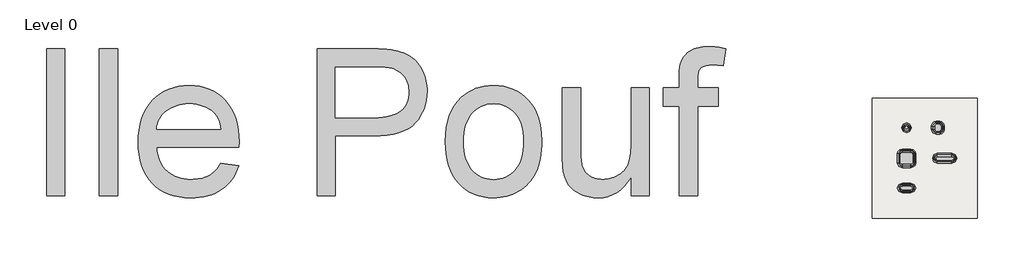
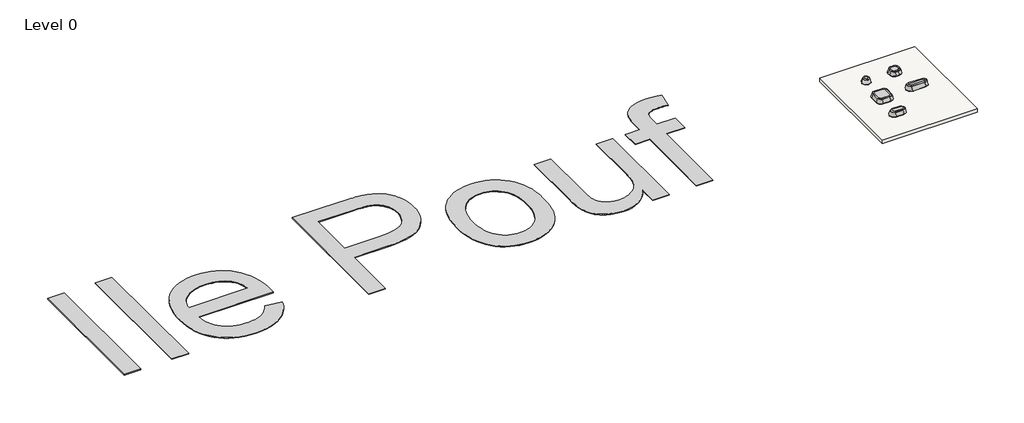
# One storey: 5 furniture elements, 1 proxy, 1 slab.
"""IFC4 building model written with IfcOpenShell, lengths in millimetres."""

from ifc_helpers import new_model, si_unit, frame, origin, origin_with_axes, place, context, project, spatial, polyline, outline, extrude, transform, mapped, element, save
from components import furniture_b467a2fe, furniture_154e36b8, furniture_c3841720, furniture_e9a74ccd, furniture_69604ef7

model = new_model("IFC4")

# Units and contexts
model_context = context("Model", 3, world=origin())
ifc_project = project(units=[si_unit("LENGTHUNIT", "METRE", prefix="MILLI")], contexts=[model_context])

# Site, building, storey
site = spatial("IfcSite", under=ifc_project)
building = spatial("IfcBuilding", under=site)
storey = spatial("IfcBuildingStorey", under=building, Name="Level 0", Elevation=0.0)

# Proxy
placement = place(None, origin())
element("IfcBuildingElementProxy", 1, Name="10 mm", ObjectType="10 mm", at=placement, inside=storey, context=model_context, shape_type="SweptSolid", body=[
    extrude(outline(polyline([(-161590.2260917, 70710.4267394), (-161590.2260917, 80756.0577544), (-160334.5222148, 80756.0577544), (-160334.5222148, 70710.4267394), (-161590.2260917, 70710.4267394)])), origin_with_axes(), (0.0, 0.0, 1.0), 50.0),
    extrude(outline(polyline([(-157980.0774457, 70710.4267394), (-157980.0774457, 80756.0577544), (-156724.3735688, 80756.0577544), (-156724.3735688, 70710.4267394), (-157980.0774457, 70710.4267394)])), origin_with_axes(), (0.0, 0.0, 1.0), 50.0),
    extrude(outline(polyline([(-149675.7545412, 72907.9085239), (-148444.5761307, 72750.9455393), (-148530.7026707, 72497.0686416), (-148633.3455795, 72257.8303816), (-148752.504857, 72033.2307594), (-148888.1805032, 71823.2697748), (-149040.3725182, 71627.947428), (-149209.0809019, 71447.2637189), (-149394.3056544, 71281.2186476), (-149596.0467756, 71129.8122139), (-149813.3079185, 70994.7305438), (-150045.092736, 70877.6597631), (-150291.401228, 70778.5998716), (-150552.2333947, 70697.5508696), (-150827.589236, 70634.5127569), (-151117.4687519, 70589.4855335), (-151421.8719424, 70562.4691995), (-151740.7988075, 70553.4637548), (-152140.9854404, 70569.002937), (-152519.9422164, 70615.6204836), (-152877.6691357, 70693.3163945), (-153214.1661982, 70802.0906699), (-153529.4334038, 70941.9433096), (-153823.4707527, 71112.8743137), (-154096.2782447, 71314.8836822), (-154347.85588, 71547.9714151), (-154573.7584176, 71809.1101501), (-154769.5406169, 72095.272525), (-154935.2024779, 72406.4585398), (-155070.7440005, 72742.6681944), (-155176.1651847, 73103.901489), (-155251.4660306, 73490.1584234), (-155296.6465382, 73901.4389977), (-155311.7067073, 74337.7432119), (-155296.493254, 74788.8968295), (-155250.852894, 75214.0687812), (-155174.7856272, 75613.259067), (-155068.2914539, 75986.4676869), (-154931.3703738, 76333.6946409), (-154764.022387, 76654.939929), (-154566.2474936, 76950.2035511), (-154338.0456934, 77219.4855074), (-154085.5866742, 77459.7584355), (-153815.0401236, 77667.9949732), (-153526.4060416, 77844.1951205), (-153219.6844281, 77988.3588773), (-152894.8752832, 78100.4862438), (-152551.9786068, 78180.5772198), (-152190.9943991, 78228.6318054), (-151811.9226599, 78244.6500006), (-151445.2477775, 78228.6701265), (-151095.7024005, 78180.730504), (-150763.2865289, 78100.8311331), (-150448.0001628, 77988.972014), (-150149.843302, 77845.1531465), (-149868.8159466, 77669.3745307), (-149604.9180966, 77461.6361665), (-149358.1497521, 77221.938054), (-149134.8338847, 76953.2692344), (-148941.2934663, 76658.6187489), (-148777.5284969, 76337.9865975), (-148643.5389764, 75991.3727802), (-148539.324905, 75618.7772969), (-148464.8862825, 75220.2001478), (-148420.223109, 74795.6413327), (-148405.3353845, 74345.1008518), (-148412.6930244, 74006.6494162), (-154056.0028305, 74006.6494162), (-154028.6224465, 73748.3272777), (-153983.2694943, 73505.5634819), (-153919.9439738, 73278.3580289), (-153838.645885, 73066.7109185), (-153739.3752278, 72870.6221509), (-153622.1320024, 72690.091726), (-153486.9162086, 72525.1196437), (-153333.7278466, 72375.7059042), (-153166.5523045, 72242.9234966), (-152989.3749707, 72127.84541), (-152802.1958451, 72030.4716444), (-152605.0149278, 71950.8021998), (-152397.8322188, 71888.8370763), (-152180.647718, 71844.5762737), (-151953.4614254, 71818.0197922), (-151716.2733411, 71809.1676317), (-151539.306773, 71813.2679831), (-151368.931424, 71825.5690373), (-151205.1472941, 71846.0707943), (-151047.9543832, 71874.7732541), (-150897.3526915, 71911.6764168), (-150753.3422188, 71956.7802822), (-150615.9229651, 72010.0848505), (-150485.0949306, 72071.5901216), (-150360.8581152, 72142.0625163), (-150243.2125188, 72222.2684554), (-150132.1581415, 72312.207939), (-150027.6949833, 72411.8809671), (-149929.8230441, 72521.2875396), (-149838.5423241, 72640.4276566), (-149753.8528231, 72769.301318), (-149675.7545412, 72907.9085239)]), holes=[polyline([(-154056.0028305, 75262.3532931), (-149661.0392614, 75262.3532931), (-149688.2088796, 75445.9110802), (-149725.5718947, 75617.6659867), (-149773.1283068, 75777.6180126), (-149830.8781159, 75925.7671577), (-149898.8213218, 76062.1134222), (-149976.9579248, 76186.6568059), (-150065.2879247, 76299.3973091), (-150163.8113215, 76400.3349315), (-150329.1282931, 76538.2906797), (-150506.2481453, 76657.8523281), (-150695.1708783, 76759.0198768), (-150895.8964919, 76841.7933257), (-151108.4249862, 76906.1726748), (-151332.7563612, 76952.1579242), (-151568.8906168, 76979.7490739), (-151816.8277531, 76988.9461238), (-152042.1746357, 76981.6076444), (-152258.3627894, 76959.5922062), (-152465.3922143, 76922.8998093), (-152663.2629104, 76871.5304536), (-152851.9748776, 76805.4841392), (-153031.528116, 76724.760866), (-153201.9226255, 76629.360634), (-153363.1584062, 76519.2834433), (-153511.0584646, 76396.9051983), (-153641.4458071, 76264.6018037), (-153754.3204339, 76122.3732594), (-153849.6823448, 75970.2195655), (-153927.53154, 75808.1407218), (-153987.8680193, 75636.1367286), (-154030.6917828, 75454.2075857), (-154056.0028305, 75262.3532931)])]), origin_with_axes(), (0.0, 0.0, 1.0), 50.0),
    extrude(outline(polyline([(-143068.5939078, 70710.4267394), (-143068.5939078, 80756.0577544), (-139345.6281167, 80756.0577544), (-139107.0413144, 80754.5632338), (-138883.0165077, 80750.0796719), (-138673.5536967, 80742.6070689), (-138478.6528814, 80732.1454247), (-138298.3140616, 80718.6947392), (-138132.5372376, 80702.2550126), (-137981.3224091, 80682.8262447), (-137844.6695763, 80660.4084356), (-137666.2659692, 80626.2452274), (-137495.258323, 80585.0692687), (-137331.6466377, 80536.8805594), (-137175.4309134, 80481.6790996), (-137026.6111501, 80419.4648893), (-136885.1873477, 80350.2379284), (-136751.1595062, 80273.998217), (-136624.5276257, 80190.7457551), (-136504.6019273, 80099.6566403), (-136390.6926325, 79999.9069701), (-136282.7997411, 79891.4967447), (-136180.9232531, 79774.4259639), (-136085.0631687, 79648.6946278), (-135995.2194877, 79514.3027365), (-135911.3922101, 79371.2502898), (-135833.581336, 79219.5372878), (-135763.4538307, 79061.5971167), (-135702.6766594, 78899.8631625), (-135651.2498222, 78734.3354251), (-135609.173319, 78565.0139048), (-135576.4471498, 78391.8986013), (-135553.0713147, 78214.9895148), (-135539.0458136, 78034.2866452), (-135534.3706466, 77849.7899925), (-135546.9974297, 77535.2892076), (-135584.8777789, 77233.1277981), (-135648.0116942, 76943.3057637), (-135736.3991756, 76665.8231047), (-135850.0402232, 76400.6798208), (-135988.9348369, 76147.8759123), (-136153.0830167, 75907.411379), (-136342.4847627, 75679.2862209), (-136564.8426041, 75471.2029674), (-136827.8590701, 75290.8641477), (-137131.5341608, 75138.2697618), (-137475.8678762, 75013.4198097), (-137860.8602162, 74916.3142914), (-138286.511181, 74846.9532068), (-138752.8207704, 74805.3365561), (-139259.7889844, 74791.4643392), (-141812.890031, 74791.4643392), (-141812.890031, 70710.4267394), (-143068.5939078, 70710.4267394)]), holes=[polyline([(-141812.890031, 76047.1682161), (-139186.2125854, 76047.1682161), (-138872.4399004, 76054.3725718), (-138582.2729767, 76075.9856391), (-138315.7118143, 76112.0074178), (-138072.7564133, 76162.4379079), (-137853.4067737, 76227.2771096), (-137657.6628955, 76306.5250227), (-137485.5247785, 76400.1816473), (-137336.992423, 76508.2469834), (-137208.8085403, 76629.3797945), (-137097.715842, 76762.2388442), (-137003.714328, 76906.8241325), (-136926.8039984, 77063.1356595), (-136866.9848531, 77231.173425), (-136824.2568922, 77410.9374291), (-136798.6201157, 77602.4276718), (-136790.0745235, 77805.6441531), (-136795.1137404, 77954.9429294), (-136810.2313911, 78098.7234759), (-136835.4274757, 78236.9857924), (-136870.7019941, 78369.729879), (-136916.0549463, 78496.9557357), (-136971.4863324, 78618.6633624), (-137036.9961522, 78734.8527592), (-137112.5844059, 78845.5239261), (-137196.3733624, 78948.8374531), (-137286.4852907, 79042.9539302), (-137382.9201908, 79127.8733574), (-137485.6780627, 79203.5957347), (-137594.7589064, 79270.1210622), (-137710.1627218, 79327.4493398), (-137831.8895091, 79375.5805675), (-137959.9392682, 79414.5147453), (-138054.1323873, 79434.6332919), (-138166.2597538, 79452.0693656), (-138296.3213675, 79466.8229665), (-138444.3172285, 79478.8940944), (-138610.2473367, 79488.2827495), (-138794.1116922, 79494.9889317), (-139215.643145, 79500.3538775), (-141812.890031, 79500.3538775), (-141812.890031, 76047.1682161)])]), origin_with_axes(), (0.0, 0.0, 1.0), 50.0),
    extrude(outline(polyline([(-134278.6667698, 74399.0568777), (-134261.6905485, 74893.2833456), (-134210.7618848, 75354.477076), (-134125.8807786, 75782.638069), (-134007.04723, 76177.7663244), (-133854.2612389, 76539.8618424), (-133667.5228053, 76868.9246228), (-133446.8319292, 77164.9546658), (-133192.1886107, 77427.9519713), (-132959.1200383, 77619.365572), (-132713.6354486, 77785.2573592), (-132455.7348416, 77925.6273329), (-132185.4182172, 78040.4754933), (-131902.6855755, 78129.8018403), (-131607.5369164, 78193.6063738), (-131299.9722401, 78231.8890939), (-130979.9915463, 78244.6500006), (-130625.3111498, 78229.1108184), (-130287.2237642, 78182.4932719), (-129965.7293893, 78104.7973609), (-129660.8280253, 77996.0230856), (-129372.5196721, 77856.1704458), (-129100.8043297, 77685.2394417), (-128845.6819982, 77483.2300732), (-128607.1526774, 77250.1423403), (-128391.3094131, 76989.655063), (-128204.2452506, 76705.4470612), (-128045.9601901, 76397.518335), (-127916.4542315, 76065.8688842), (-127815.7273748, 75710.498709), (-127743.77962, 75331.4078092), (-127700.6109671, 74928.596185), (-127686.2214162, 74502.0638364), (-127692.582709, 74156.5230082), (-127711.6665875, 73829.9127743), (-127743.4730517, 73522.2331348), (-127788.0021015, 73233.4840897), (-127845.253737, 72963.6656388), (-127915.2279582, 72712.7777823), (-127997.924765, 72480.8205202), (-128093.3441575, 72267.7938523), (-128200.9304806, 72069.9231563), (-128320.1280791, 71883.4338094), (-128450.9369531, 71708.3258118), (-128593.3571026, 71544.5991635), (-128747.3885276, 71392.2538643), (-128913.031228, 71251.2899144), (-129090.2852039, 71121.7073137), (-129279.1504553, 71003.5060622), (-129476.0631253, 70898.0273964), (-129677.4593572, 70806.6125527), (-129883.3391508, 70729.2615311), (-130093.7025063, 70665.9743317), (-130308.5494236, 70616.7509543), (-130527.8799027, 70581.591399), (-130751.6939436, 70560.4956659), (-130979.9915463, 70553.4637548), (-131340.2668148, 70568.9454554), (-131682.8760834, 70615.3905573), (-132007.8193519, 70692.7990605), (-132315.0966205, 70801.1709649), (-132604.7078891, 70940.5062706), (-132876.6531577, 71110.8049775), (-133130.9324264, 71312.0670857), (-133367.545695, 71544.2925951), (-133581.0896969, 71805.6420959), (-133766.1611652, 72094.2761779), (-133922.7600999, 72410.1948413), (-134050.8865011, 72753.398086), (-134150.5403686, 73123.8859119), (-134221.7217026, 73521.6583192), (-134264.430503, 73946.7153078), (-134278.6667698, 74399.0568777)]), holes=[polyline([(-133022.9628929, 74401.5094244), (-133013.8808061, 74086.7595527), (-132986.6345459, 73792.4347961), (-132941.2241121, 73518.5351544), (-132877.6495048, 73265.0606276), (-132795.910724, 73032.0112157), (-132696.0077697, 72819.3869188), (-132577.9406418, 72627.1877369), (-132441.7093405, 72455.4136699), (-132291.7207854, 72303.9497547), (-132132.3818962, 72172.6810282), (-131963.692673, 72061.6074903), (-131785.6531158, 71970.7291412), (-131598.2632245, 71900.0459808), (-131401.5229991, 71849.5580091), (-131195.4324398, 71819.265226), (-130979.9915463, 71809.1676317), (-130765.7002841, 71819.3227076), (-130560.6060718, 71849.7879353), (-130364.7089094, 71900.5633148), (-130178.0087969, 71971.6488462), (-130000.5057342, 72063.0445294), (-129832.1997214, 72174.7503644), (-129673.0907585, 72306.7663512), (-129523.1788454, 72459.0924898), (-129386.9475441, 72632.2269538), (-129268.8804163, 72826.6679167), (-129168.977462, 73042.4153784), (-129087.2386812, 73279.4693391), (-129023.6640739, 73537.8297986), (-128978.2536401, 73817.496757), (-128951.0073798, 74118.4702143), (-128941.9252931, 74440.7501705), (-128951.0648614, 74745.153361), (-128978.4835663, 75030.510994), (-129024.1814079, 75296.8230696), (-129088.1583861, 75544.0895877), (-129170.414501, 75772.3105484), (-129270.9497525, 75981.4859516), (-129389.7641406, 76171.6157973), (-129526.8576654, 76342.7000856), (-129677.5168387, 76494.1640008), (-129837.0281726, 76625.4327273), (-130005.3916669, 76736.5062651), (-130182.6073218, 76827.3846142), (-130368.6751372, 76898.0677746), (-130563.595113, 76948.5557464), (-130767.3672494, 76978.8485294), (-130979.9915463, 76988.9461238), (-131195.4324398, 76978.8868505), (-131401.5229991, 76948.7090305), (-131598.2632245, 76898.412664), (-131785.6531158, 76827.9977509), (-131963.692673, 76737.4642911), (-132132.3818962, 76626.8122848), (-132291.7207854, 76496.0417318), (-132441.7093405, 76345.1526322), (-132577.9406418, 76173.9533808), (-132696.0077697, 75982.2523724), (-132795.910724, 75770.0496069), (-132877.6495048, 75537.3450845), (-132941.2241121, 75284.138805), (-132986.6345459, 75010.4307685), (-133013.8808061, 74716.2209749), (-133022.9628929, 74401.5094244)])]), origin_with_axes(), (0.0, 0.0, 1.0), 50.0),
    extrude(outline(polyline([(-121564.6650164, 70710.4267394), (-121564.6650164, 71978.3933495), (-121782.4818144, 71644.4254757), (-122018.9992805, 71354.9866518), (-122274.2174146, 71110.0768777), (-122548.1362169, 70909.6961535), (-122840.7556872, 70753.844479), (-123152.0758256, 70642.5218545), (-123482.0966321, 70575.7282797), (-123830.8181067, 70553.4637548), (-123987.6852887, 70557.372501), (-124141.9083189, 70569.0987396), (-124293.4871972, 70588.6424706), (-124442.4219237, 70616.003694), (-124588.7124984, 70651.1824098), (-124732.3589212, 70694.178618), (-124873.3611921, 70744.9923185), (-125011.7193113, 70803.6235115), (-125144.3484347, 70868.1561448), (-125268.1637187, 70936.6741664), (-125383.1651633, 71009.1775763), (-125489.3527683, 71085.6663745), (-125586.7265339, 71166.1405609), (-125675.2864601, 71250.6001357), (-125755.0325467, 71339.0450987), (-125825.9647939, 71431.47545), (-125890.0184142, 71528.5426472), (-125949.1286202, 71630.8981482), (-126003.2954119, 71738.5419528), (-126052.5187893, 71851.4740611), (-126096.7987523, 71969.6944731), (-126136.1353011, 72093.2031888), (-126170.5284355, 72222.0002081), (-126199.9781557, 72356.0855312), (-126217.2226242, 72454.8005332), (-126232.1678303, 72567.0045417), (-126244.8137738, 72692.6975568), (-126255.1604549, 72831.8795783), (-126268.9560298, 73150.7106407), (-126273.5545547, 73523.4977292), (-126273.5545547, 78087.687016), (-125017.8506778, 78087.687016), (-125017.8506778, 74114.5614681), (-125013.0988687, 73678.6213038), (-124998.8434414, 73319.9363585), (-124988.1518709, 73169.564593), (-124975.0843959, 73038.5066322), (-124959.6410163, 72926.7624762), (-124941.8217322, 72834.3321249), (-124908.3099817, 72717.9702834), (-124866.6358494, 72608.0080558), (-124816.7993354, 72504.445442), (-124758.8004396, 72407.2824422), (-124692.639162, 72316.5190562), (-124618.3155027, 72232.155284), (-124535.8294616, 72154.1911258), (-124445.1810387, 72082.6265814), (-124347.6731494, 72018.5346401), (-124244.6087092, 71962.9882909), (-124135.987718, 71915.9875339), (-124021.8101759, 71877.5323691), (-123902.0760828, 71847.6227965), (-123776.7854387, 71826.258816), (-123645.9382436, 71813.4404278), (-123509.5344976, 71809.1676317), (-123370.8314891, 71813.5362304), (-123234.31278, 71826.6420264), (-123099.9783702, 71848.4850199), (-122967.8282597, 71879.0652108), (-122837.8624486, 71918.382599), (-122710.0809368, 71966.4371846), (-122584.4837244, 72023.2289676), (-122461.0708114, 72088.757948), (-122343.2144493, 72161.817013), (-122234.2868897, 72241.1990498), (-122134.2881328, 72326.9040583), (-122043.2181785, 72418.9320387), (-121961.0770268, 72517.2829908), (-121887.8646776, 72621.9569148), (-121823.5811311, 72732.9538105), (-121768.2263871, 72850.273678), (-121720.5166909, 72977.5570162), (-121679.1682874, 73118.4443241), (-121644.1811769, 73272.9356015), (-121615.5553591, 73441.0308486), (-121593.2908342, 73622.7300653), (-121577.3876021, 73818.0332516), (-121567.8456629, 74026.9404075), (-121564.6650164, 74249.451533), (-121564.6650164, 78087.687016), (-120308.9611396, 78087.687016), (-120308.9611396, 70710.4267394), (-121564.6650164, 70710.4267394)])), origin_with_axes(), (0.0, 0.0, 1.0), 50.0),
    extrude(outline(polyline([(-118268.4423397, 70710.4267394), (-118268.4423397, 76831.9831392), (-119367.1832319, 76831.9831392), (-119367.1832319, 78087.687016), (-118268.4423397, 78087.687016), (-118268.4423397, 78830.8086463), (-118266.3730034, 79001.6821688), (-118260.1649948, 79161.1360211), (-118249.8183137, 79309.1702031), (-118235.3329601, 79445.7847149), (-118216.7089341, 79570.9795564), (-118193.9462356, 79684.7547276), (-118167.0448647, 79787.1102285), (-118136.0048214, 79878.0460592), (-118085.7276154, 79990.5949571), (-118026.8664962, 80097.7022672), (-117959.4214637, 80199.3679894), (-117883.392518, 80295.5921237), (-117798.7796592, 80386.3746703), (-117705.582887, 80471.7156289), (-117603.8022017, 80551.6149998), (-117493.4376032, 80626.0727827), (-117373.3394601, 80693.32621), (-117242.3581414, 80751.6125136), (-117100.4936471, 80800.9316936), (-116947.745977, 80841.2837499), (-116784.1151312, 80872.6686826), (-116609.6011097, 80895.0864917), (-116424.2039126, 80908.5371772), (-116227.9235397, 80913.020739), (-116096.8272579, 80910.8747607), (-115962.2820824, 80904.4368258), (-115824.2880132, 80893.7069342), (-115682.8450502, 80878.6850861), (-115537.9531936, 80859.3712814), (-115389.6124432, 80835.76552), (-115237.8227992, 80807.867802), (-115082.5842614, 80775.6781274), (-115266.525259, 79598.4557429), (-115455.2180657, 79624.2074825), (-115638.6992108, 79642.6015823), (-115816.9686943, 79653.6380422), (-115990.0265162, 79657.3168621), (-116124.7058154, 79654.0595736), (-116249.1533966, 79644.2877081), (-116363.3692597, 79628.0012656), (-116467.3534049, 79605.2002461), (-116561.1058321, 79575.8846496), (-116644.6265414, 79540.0544761), (-116717.9155326, 79497.7097257), (-116780.9728058, 79448.8503982), (-116835.2928817, 79391.1005891), (-116882.3702807, 79322.084394), (-116922.205003, 79241.8018128), (-116954.7970486, 79150.2528454), (-116980.1464173, 79047.437492), (-116998.2531092, 78933.3557524), (-117009.1171244, 78808.0076268), (-117012.7384628, 78671.393115), (-117012.7384628, 78087.687016), (-115600.0716013, 78087.687016), (-115600.0716013, 76831.9831392), (-117012.7384628, 76831.9831392), (-117012.7384628, 70710.4267394), (-118268.4423397, 70710.4267394)])), origin_with_axes(), (0.0, 0.0, 1.0), 50.0),
])

# Furniture
furniture_shape = furniture_b467a2fe(model_context)
element("IfcFurniture", 2, ObjectType="Pouf_Bensen_IlePouf_ILE001 : Pouf_Bensen_IlePouf_ILE001", at=placement, inside=storey, context=model_context, shape_type="MappedRepresentation", body=[
    mapped(furniture_shape, transform((-102705.2501913, 75355.4800588, 0.0), x_axis=(1.0, 0.0, 0.0), y_axis=(0.0, 1.0, 0.0), z_axis=(0.0, 0.0, 1.0))),
])
furniture_2_shape = furniture_154e36b8(model_context)
element("IfcFurniture", 3, ObjectType="Pouf_Bensen_IlePouf_ILE005 : Pouf_Bensen_IlePouf_ILE005", at=placement, inside=storey, context=model_context, shape_type="MappedRepresentation", body=[
    mapped(furniture_2_shape, transform((-102705.2501913, 71227.6131091, 0.0), x_axis=(1.0, 0.0, 0.0), y_axis=(0.0, 1.0, 0.0), z_axis=(0.0, 0.0, 1.0))),
])
furniture_3_shape = furniture_c3841720(model_context)
element("IfcFurniture", 4, ObjectType="Pouf_Bensen_IlePouf_ILE004 : Pouf_Bensen_IlePouf_ILE004", at=placement, inside=storey, context=model_context, shape_type="MappedRepresentation", body=[
    mapped(furniture_3_shape, transform((-100091.7617142, 73259.7127569, 0.0), x_axis=(1.0, 0.0, 0.0), y_axis=(0.0, 1.0, 0.0), z_axis=(0.0, 0.0, 1.0))),
])
furniture_4_shape = furniture_e9a74ccd(model_context)
element("IfcFurniture", 5, ObjectType="Pouf_Bensen_IlePouf_ILE003 : Pouf_Bensen_IlePouf_ILE003", at=placement, inside=storey, context=model_context, shape_type="MappedRepresentation", body=[
    mapped(furniture_4_shape, transform((-102705.2501913, 73259.7127569, 0.0), x_axis=(1.0, 0.0, 0.0), y_axis=(0.0, 1.0, 0.0), z_axis=(0.0, 0.0, 1.0))),
])
furniture_5_shape = furniture_69604ef7(model_context)
element("IfcFurniture", 6, ObjectType="Pouf_Bensen_IlePouf_ILE002 : Pouf_Bensen_IlePouf_ILE002", at=placement, inside=storey, context=model_context, shape_type="MappedRepresentation", body=[
    mapped(furniture_5_shape, transform((-100554.7933099, 75355.4800588, 0.0), x_axis=(1.0, 0.0, 0.0), y_axis=(0.0, 1.0, 0.0), z_axis=(0.0, 0.0, 1.0))),
])

# Slab
element("IfcSlab", 7, ObjectType="FL_300 mm_Generic", at=placement, inside=storey, context=model_context, shape_type="SweptSolid", body=[
    extrude(outline(polyline([(-97847.8885325, 77369.9753886), (-97847.8885325, 69169.9753886), (-105047.8885325, 69169.9753886), (-105047.8885325, 77369.9753886), (-97847.8885325, 77369.9753886)])), frame((0.0, 0.0, -300.0), z_axis=(0.0, 0.0, 1.0), x_axis=(1.0, 0.0, 0.0)), (0.0, 0.0, 1.0), 300.0),
])

save(model, "model.ifc")
